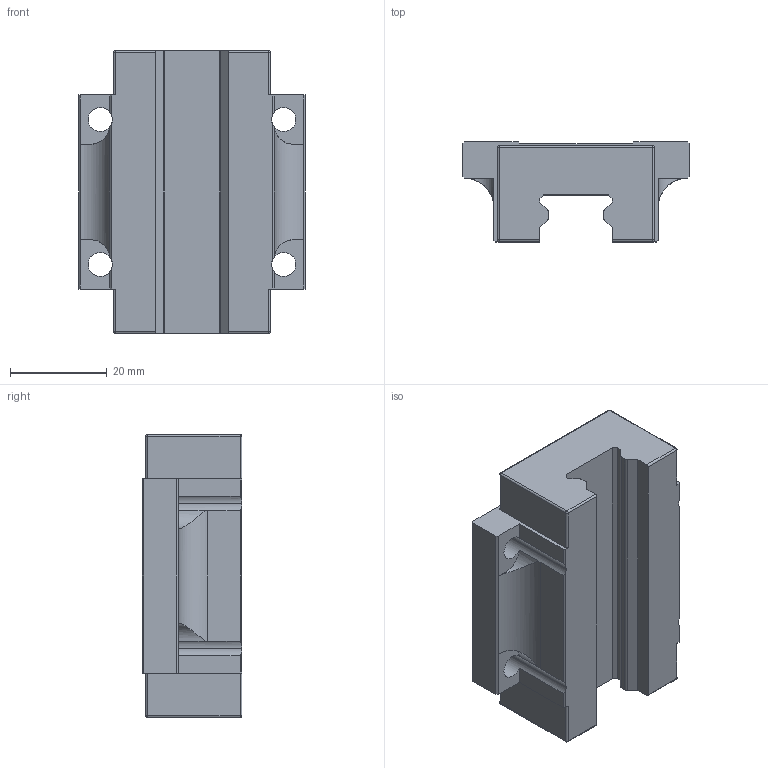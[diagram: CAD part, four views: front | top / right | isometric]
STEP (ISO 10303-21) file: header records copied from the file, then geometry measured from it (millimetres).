
FILE_DESCRIPTION (( 'STEP AP203' ), '1' );
FILE_NAME ('L1016.F15-BC.step', '2019-06-13T14:22:14', ( '' ), ( '' ), 'SwSTEP 2.0', 'SolidWorks 2017', '' );
FILE_SCHEMA (( 'CONFIG_CONTROL_DESIGN' ));
Length unit declared in the file: millimetre
Products named in the file (1): L1016.F15-BC
Bounding box: 47 x 20.7 x 58.6 mm (x, y, z)
Volume: 35705.1 mm3; surface area: 10085.5 mm2
Topology: 1 solids, 1 shells, 100 faces, 286 edges, 176 vertices
Faces by surface type: plane 56, cylinder 36, sphere 8
Entity records: 3331 total; most frequent: CARTESIAN_POINT 659, ORIENTED_EDGE 556, DIRECTION 540, EDGE_CURVE 278, VECTOR 186, LINE 186, AXIS2_PLACEMENT_3D 177, VERTEX_POINT 176
